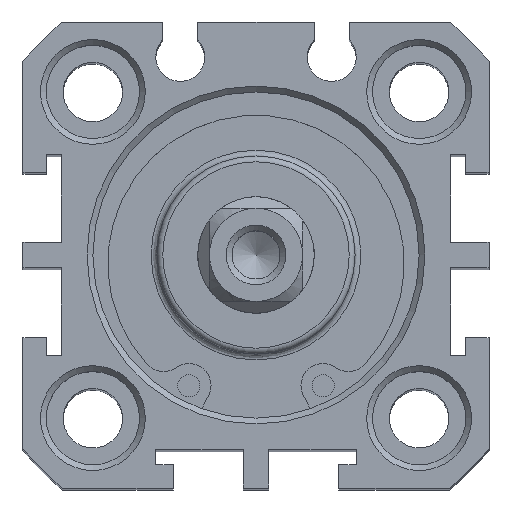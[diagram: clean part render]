
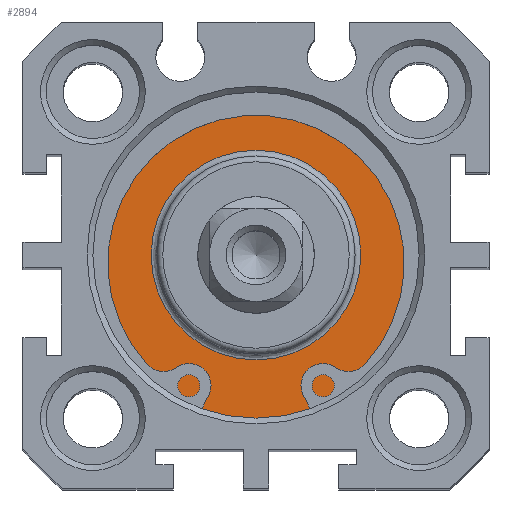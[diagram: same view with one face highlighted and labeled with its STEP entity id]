
A CAD part, top view. The second image highlights one B-rep face of the part: STEP entity #2894.
In plain terms, the highlighted planar face has unit normal (0, 0, 1).
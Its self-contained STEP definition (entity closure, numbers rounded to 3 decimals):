
#2843=CARTESIAN_POINT('',(-2.524,11.284,93.3));
#2844=VERTEX_POINT('',#2843);
#2845=CARTESIAN_POINT('',(-2.524,2.284,93.3));
#2846=DIRECTION('',(0.0,0.0,1.0));
#2847=DIRECTION('',(0.0,-1.0,0.0));
#2848=AXIS2_PLACEMENT_3D('',#2845,#2846,#2847);
#2849=CIRCLE('',#2848,9.);
#2850=EDGE_CURVE('',#2844,#2844,#2849,.T.);
#2875=CARTESIAN_POINT('',(-2.524,13.534,93.3));
#2876=DIRECTION('',(0.0,0.0,1.0));
#2877=DIRECTION('',(1.0,0.0,0.0));
#2878=AXIS2_PLACEMENT_3D('',#2875,#2876,#2877);
#2879=PLANE('',#2878);
#2880=CARTESIAN_POINT('',(-2.524,16.284,93.3));
#2881=VERTEX_POINT('',#2880);
#2882=CARTESIAN_POINT('',(-2.524,2.284,93.3));
#2883=DIRECTION('',(0.0,0.0,-1.0));
#2884=DIRECTION('',(0.0,1.0,0.0));
#2885=AXIS2_PLACEMENT_3D('',#2882,#2883,#2884);
#2886=CIRCLE('',#2885,14.);
#2887=EDGE_CURVE('',#2881,#2881,#2886,.T.);
#2888=ORIENTED_EDGE('',*,*,#2887,.F.);
#2889=EDGE_LOOP('',(#2888));
#2890=FACE_OUTER_BOUND('',#2889,.T.);
#2891=ORIENTED_EDGE('',*,*,#2850,.F.);
#2892=EDGE_LOOP('',(#2891));
#2893=FACE_BOUND('',#2892,.T.);
#2894=ADVANCED_FACE('',(#2890,#2893),#2879,.T.);
